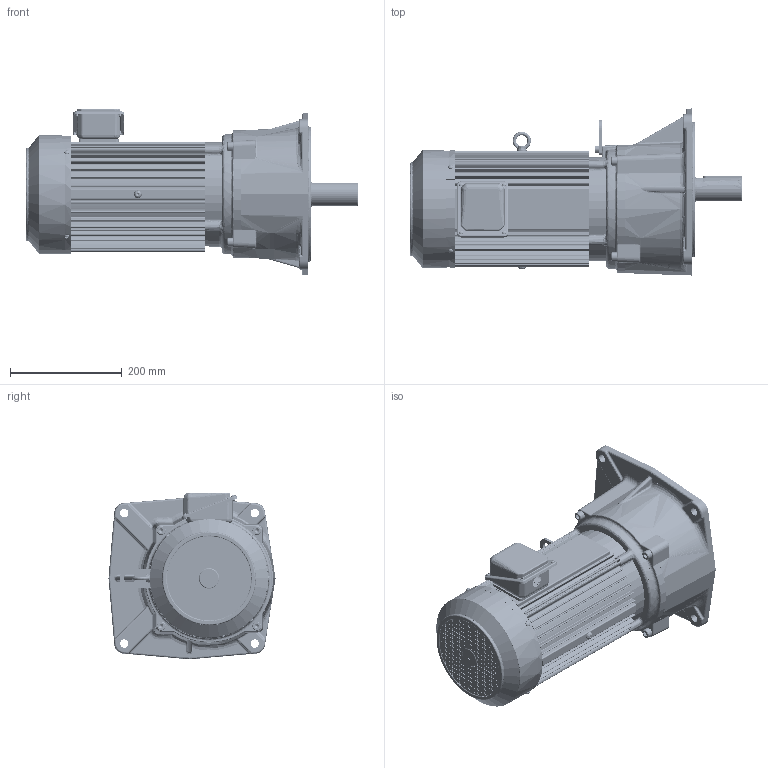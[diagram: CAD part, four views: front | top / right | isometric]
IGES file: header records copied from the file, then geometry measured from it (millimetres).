
Start section: SolidWorks IGES file using analytic representation for surfaces
Global section: file name: \\100.100.100.8\1_共有作業フォルダ\1-5_３Ｄデータ\solidworks\personal-folder\H.Nagayama\SGP1外形075~370\P1(3D)_075~370\igs\TMF2-22E-(5~20).IGS; native system: SolidWorks 2018; preprocessor: SolidWorks 2018; author: sigma-giken; date: 200806.155227; units: millimetre
Bounding box: 594 x 299 x 298.5 mm (x, y, z)
Surface area: 1022388.8 mm2 (no closed solid volume)
Topology: 0 solids, 0 shells, 3384 faces, 36658 edges, 36578 vertices
Faces by surface type: bspline 1801, revolution 1583
